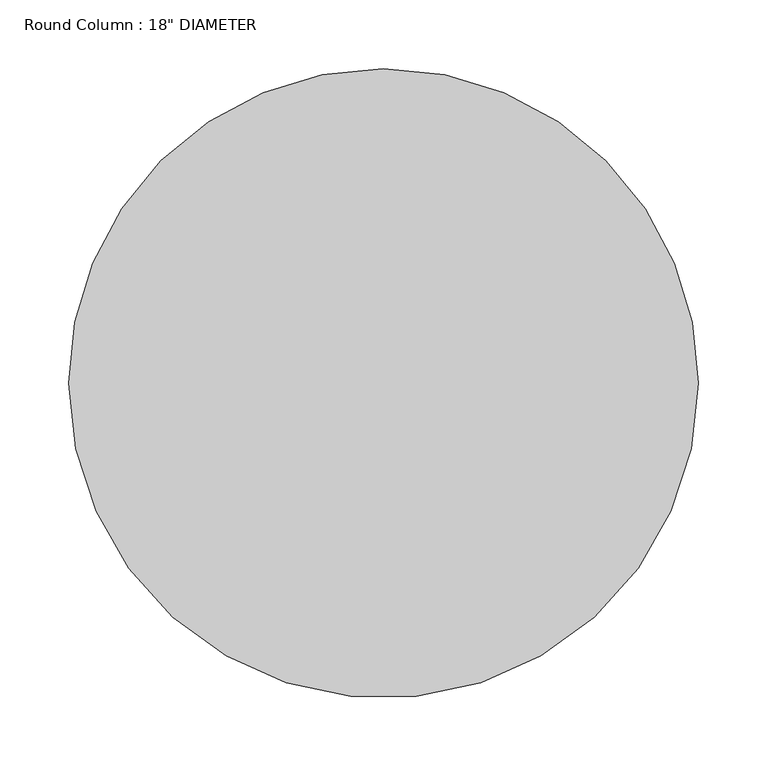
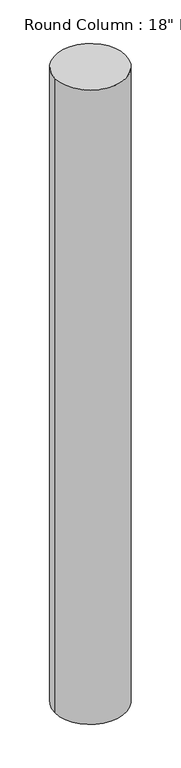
"""IFC4 building model written with IfcOpenShell, lengths in millimetres: column geometry."""

from ifc_helpers import new_model, si_unit, point, frame, origin, origin_2d, place, context, project, spatial, circle_curve, trimmed, segment, composite_curve, outline, extrude, source, transform, mapped, element, save


def column_3d543a50(model_context):
    return source(origin(), model_context, "Body", "SweptSolid", [
        extrude(outline(composite_curve([segment(trimmed(circle_curve(origin_2d(), 228.6), [point((228.6, 0.0))], [point((-228.6, 0.0))], False, "CARTESIAN"), True, "CONTINUOUS"), segment(trimmed(circle_curve(origin_2d(), 228.6), [point((-228.6, 0.0))], [point((0.0, 228.6))], False, "CARTESIAN"), True, "CONTINUOUS"), segment(trimmed(circle_curve(origin_2d(), 228.6), [point((0.0, 228.6))], [point((228.6, 0.0))], False, "CARTESIAN"), True, "CONTINUOUS")], self_intersect=False)), frame((0.0, 0.0, 290080.7), z_axis=(0.0, 0.0, 1.0), x_axis=(1.0, 0.0, 0.0)), (0.0, 0.0, 1.0), 4343.4),
    ])


if __name__ == "__main__":
    model = new_model("IFC4")
    model_context = context("Model", 3, world=origin())
    ifc_project = project(units=[si_unit("LENGTHUNIT", "METRE", prefix="MILLI")], contexts=[model_context])
    site = spatial("IfcSite", under=ifc_project)
    building = spatial("IfcBuilding", under=site)
    placement = place(None, origin())
    column_shape = column_3d543a50(model_context)
    element("IfcColumn", 1, ObjectType="Round Column : 18\" DIAMETER", at=placement, inside=building, context=model_context, shape_type="MappedRepresentation", body=[
        mapped(column_shape, transform((0.0, 0.0, 0.0), x_axis=(1.0, 0.0, 0.0), y_axis=(0.0, 1.0, 0.0), z_axis=(0.0, 0.0, 1.0))),
    ])
    save(model, "model.ifc")
